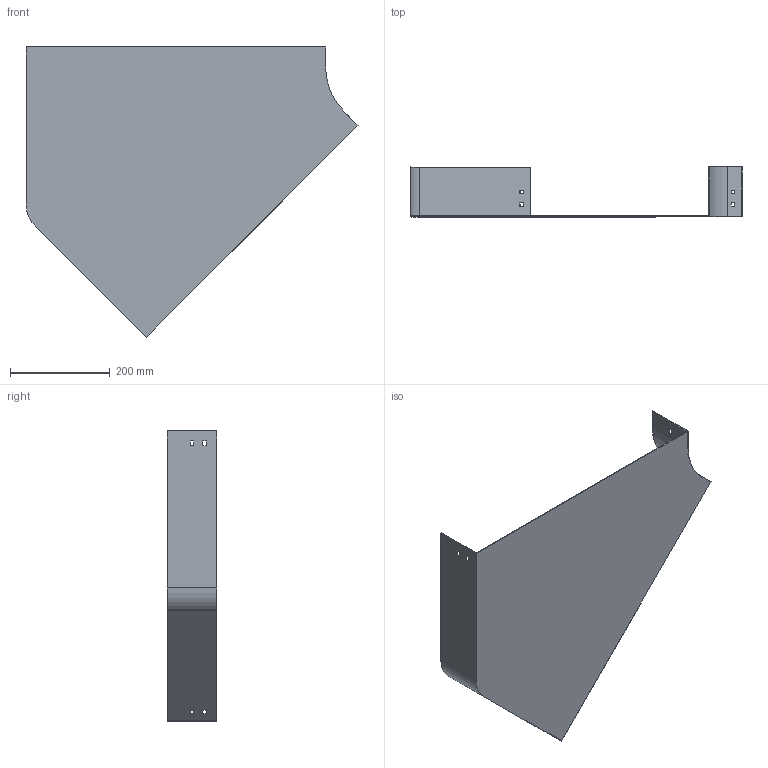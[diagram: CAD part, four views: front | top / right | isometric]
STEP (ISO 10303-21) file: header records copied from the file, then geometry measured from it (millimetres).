
FILE_DESCRIPTION (( 'STEP AP214' ), '1' );
FILE_NAME ('P4_601.step', '2025-07-16T09:19:54', ( '' ), ( '' ), 'SwSTEP 2.0', 'SolidWorks 2023', '' );
FILE_SCHEMA (( 'AUTOMOTIVE_DESIGN' ));
Length unit declared in the file: millimetre
Products named in the file (1): P4_601
Bounding box: 664.9 x 100 x 580.94 mm (x, y, z)
Volume: 514899.6 mm3; surface area: 690616 mm2
Topology: 1 solids, 1 shells, 50 faces, 144 edges, 96 vertices
Faces by surface type: plane 46, cylinder 4
Entity records: 1671 total; most frequent: CARTESIAN_POINT 291, ORIENTED_EDGE 288, DIRECTION 254, EDGE_CURVE 144, LINE 136, VECTOR 136, VERTEX_POINT 96, EDGE_LOOP 66
